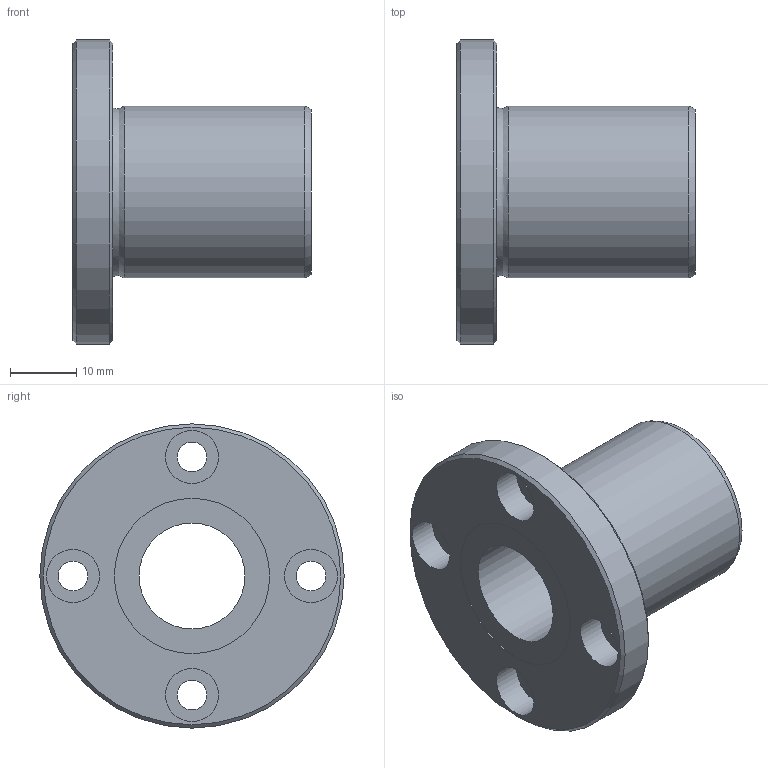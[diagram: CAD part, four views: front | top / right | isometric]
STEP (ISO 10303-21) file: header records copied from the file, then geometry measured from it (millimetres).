
FILE_DESCRIPTION((''),'2;1');
FILE_NAME('D:\製品 (図面)\カタログ用3D\リニアベアリング関連\STEP形式\LF\LF16.stp','2010-06-03T09:13:03',('Tsuchiya'),(''),'Autodesk Inventor 10','Autodesk Inventor 10','');
FILE_SCHEMA(('AUTOMOTIVE_DESIGN { 1 0 10303 214 1 1 1 1 }'));
Length unit declared in the file: millimetre
Products named in the file (1): LF16
Bounding box: 36 x 46 x 46 mm (x, y, z)
Volume: 17546.3 mm3; surface area: 8363.2 mm2
Topology: 1 solids, 1 shells, 26 faces, 47 edges, 30 vertices
Faces by surface type: cylinder 13, plane 9, cone 2, torus 1, bspline 1
Full cylindrical faces by diameter (mm): 4.5 x4, 8 x4, 16 x1, 23.5 x2, 26 x1, 46 x1
Entity records: 665 total; most frequent: CARTESIAN_POINT 149, DIRECTION 112, ORIENTED_EDGE 60, EDGE_LOOP 60, AXIS2_PLACEMENT_3D 56, FACE_BOUND 34, VERTEX_POINT 30, CIRCLE 30
